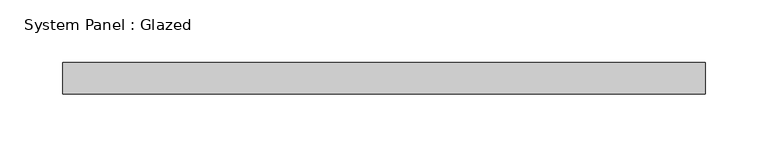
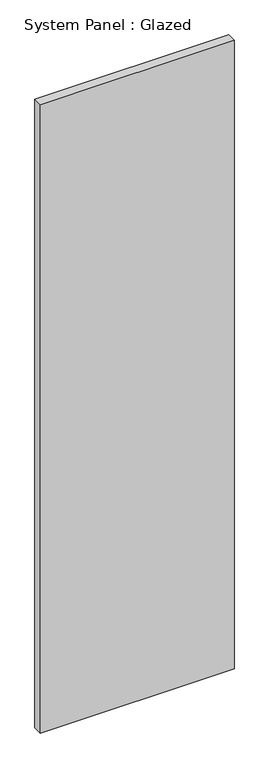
"""IFC4 building model written with IfcOpenShell, lengths in millimetres: plate geometry, System Panel : Glazed."""

from ifc_helpers import new_model, si_unit, origin, origin_with_axes, place, context, project, spatial, polyline, outline, extrude, source, transform, mapped, element, save


def system_panel_glazed_a7a8c7fc(model_context):
    return source(origin(), model_context, "Body", "SweptSolid", [
        extrude(outline(polyline([(257.175, -44.45), (-257.175, -44.45), (-257.175, -19.05), (257.175, -19.05), (257.175, -44.45)])), origin_with_axes(), (0.0, 0.0, 1.0), 1765.3),
    ])


if __name__ == "__main__":
    model = new_model("IFC4")
    model_context = context("Model", 3, world=origin())
    ifc_project = project(units=[si_unit("LENGTHUNIT", "METRE", prefix="MILLI")], contexts=[model_context])
    site = spatial("IfcSite", under=ifc_project)
    building = spatial("IfcBuilding", under=site)
    placement = place(None, origin())
    system_panel_glazed_shape = system_panel_glazed_a7a8c7fc(model_context)
    element("IfcPlate", 1, ObjectType="System Panel : Glazed", at=placement, inside=building, context=model_context, shape_type="MappedRepresentation", body=[
        mapped(system_panel_glazed_shape, transform((0.0, 0.0, 0.0), x_axis=(1.0, 0.0, 0.0), y_axis=(0.0, 1.0, 0.0), z_axis=(0.0, 0.0, 1.0))),
    ])
    save(model, "model.ifc")
